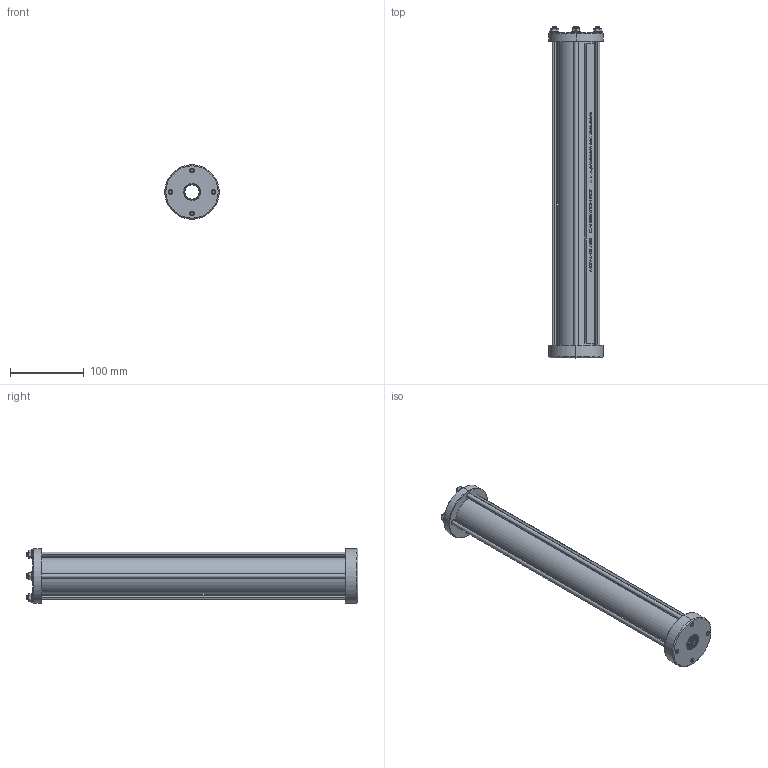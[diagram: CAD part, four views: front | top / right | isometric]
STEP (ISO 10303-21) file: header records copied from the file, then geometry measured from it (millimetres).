
FILE_DESCRIPTION (( 'STEP AP214' ), '1' );
FILE_NAME ('0.5LTR-C-11-34.STEP', '2026-01-12T12:48:32', ( '' ), ( '' ), 'SwSTEP 2.0', 'SolidWorks 2024', '' );
FILE_SCHEMA (( 'AUTOMOTIVE_DESIGN' ));
Length unit declared in the file: millimetre
Products named in the file (1): 0.5LTR-C-11-34
Bounding box: 74 x 450 x 74 mm (x, y, z)
Surface area: 186610.9 mm2 (no closed solid volume)
Topology: 0 solids, 44 shells, 560 faces, 2158 edges, 1608 vertices
Faces by surface type: cylinder 198, bspline 162, plane 144, cone 48, torus 8
Entity records: 55939 total; most frequent: CARTESIAN_POINT 34548, ORIENTED_EDGE 3149, DIRECTION 2377, EDGE_CURVE 2158, VERTEX_POINT 1608, LINE 1021, VECTOR 1021, AXIS2_PLACEMENT_3D 678
